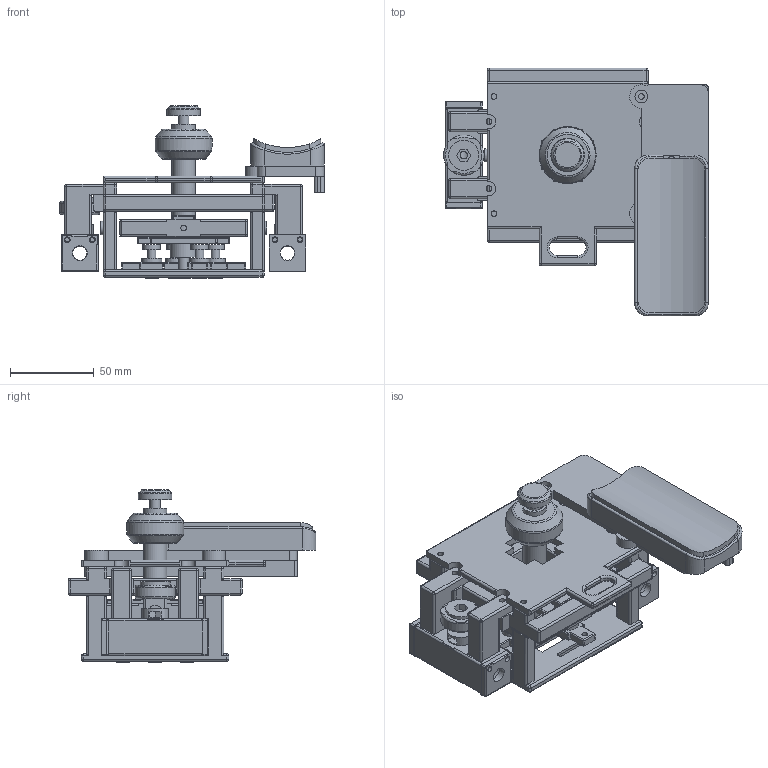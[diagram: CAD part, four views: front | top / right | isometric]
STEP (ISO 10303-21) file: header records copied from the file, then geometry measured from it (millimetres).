
FILE_DESCRIPTION(('Open CASCADE Model'),'2;1');
FILE_NAME('Open CASCADE Shape Model','2026-10-04T18:41:33',('Author'),( 'Open CASCADE'),'Open CASCADE STEP processor 7.8','Open CASCADE 7.8' ,'Unknown');
FILE_SCHEMA(('AUTOMOTIVE_DESIGN { 1 0 10303 214 1 1 1 1 }'));
Length unit declared in the file: millimetre
Products named in the file (34): V5_right_hand_fit_trial; C09_y_carriage_with_head_legs__1; C10_y_bearing_end_cap__2; C10_y_bearing_end_cap__3; C09_y_carriage_with_head_legs__4; C10_y_bearing_end_cap__5; C10_y_bearing_end_cap__6; 06_x_carriage_upper__7; 07_head_stator__8; 11_outer_gimbal__9; 12_joystick_cam_stem__10; 13_cross_gate_transport_loop__11; 14_hollow_grip__12; 15_center_pushrod_button__13; 17_center_return_stop_collar__14; 08_plunger_guide__15; 09_direction_plunger__16; 10_contact_foot__17; 08_plunger_guide__18; 09_direction_plunger__19; 10_contact_foot__20; 08_plunger_guide__21; 09_direction_plunger__22; 10_contact_foot__23; 08_plunger_guide__24; 09_direction_plunger__25; 10_contact_foot__26; 10_contact_foot__27; 18_outer_pivot_head_spacer__28; 18_outer_pivot_head_spacer__29; 16_m4_drag_knob__30; H01_right_mount; H03_universal_edge_cradle; REFERENCE_soft_pad_do_not_print
Assembly tree (33 placements, depth 2):
  V5_right_hand_fit_trial
    C09_y_carriage_with_head_legs__1
    C10_y_bearing_end_cap__2
    C10_y_bearing_end_cap__3
    C09_y_carriage_with_head_legs__4
    C10_y_bearing_end_cap__5
    C10_y_bearing_end_cap__6
    06_x_carriage_upper__7
    07_head_stator__8
    11_outer_gimbal__9
    12_joystick_cam_stem__10
    13_cross_gate_transport_loop__11
    14_hollow_grip__12
    15_center_pushrod_button__13
    17_center_return_stop_collar__14
    08_plunger_guide__15
    09_direction_plunger__16
    10_contact_foot__17
    08_plunger_guide__18
    09_direction_plunger__19
    10_contact_foot__20
    08_plunger_guide__21
    09_direction_plunger__22
    10_contact_foot__23
    08_plunger_guide__24
    09_direction_plunger__25
    10_contact_foot__26
    10_contact_foot__27
    18_outer_pivot_head_spacer__28
    18_outer_pivot_head_spacer__29
    16_m4_drag_knob__30
    H01_right_mount
    H03_universal_edge_cradle
    REFERENCE_soft_pad_do_not_print
Bounding box: 158 x 148 x 103 mm (x, y, z)
Volume: 341619.2 mm3; surface area: 166282 mm2
Topology: 33 solids, 33 shells, 1612 faces, 4078 edges, 2471 vertices
Faces by surface type: plane 830, cylinder 617, sphere 133, torus 12, bspline 11, cone 5, revolution 4
Full cylindrical faces by diameter (mm): 2.7 x13, 3.4 x55, 4.4 x7, 5 x4, 5.6 x4, 6.2 x6, 6.6 x1, 6.8 x2, 7.6 x2, 8 x7, 8.4 x4, 8.45 x2, 8.8 x4, 8.9 x4, 10.5 x5, 12 x4, 14 x2, 14.5 x1, 15.2 x4, 16 x3, 18 x1, 20 x1, 24 x2, 34 x1
Entity records: 107677 total; most frequent: CARTESIAN_POINT 25534, DIRECTION 15778, LINE 9442, VECTOR 9442, ORIENTED_EDGE 7892, PCURVE 7892, DEFINITIONAL_REPRESENTATION 7892, EDGE_CURVE 3946
